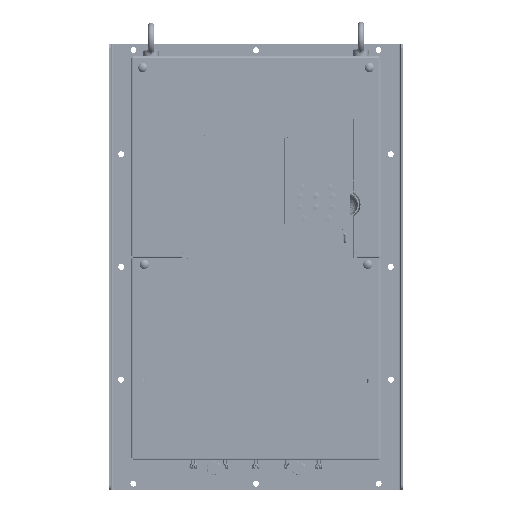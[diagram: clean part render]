
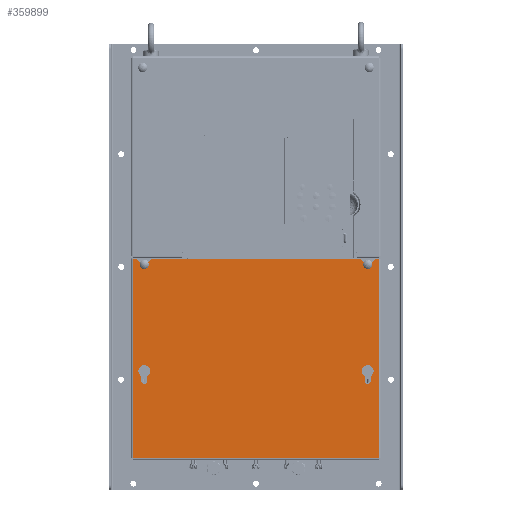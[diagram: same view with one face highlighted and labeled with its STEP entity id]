
A CAD part, top view. The second image highlights one B-rep face of the part: STEP entity #359899.
In plain terms, the highlighted planar face has unit normal (0, 0, 1) as drawn and (0, 1, 0) by its records, which use the part's own axes.
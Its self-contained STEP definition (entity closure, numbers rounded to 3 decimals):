
#358992=CARTESIAN_POINT('',(113.9,0.,-79.5));
#358993=DIRECTION('',(0.,1.,0.));
#358994=DIRECTION('',(-1.,0.,0.));
#358995=AXIS2_PLACEMENT_3D('',#358992,#358993,#358994);
#358997=DIRECTION('',(0.,0.,1.));
#358998=VECTOR('',#358997,4.804);
#358999=CARTESIAN_POINT('',(116.9,0.,-84.304));
#359000=LINE('',#358999,#358998);
#359001=CARTESIAN_POINT('',(113.9,0.,-89.5));
#359002=DIRECTION('',(0.,1.,0.));
#359003=DIRECTION('',(0.5,0.,0.866));
#359004=AXIS2_PLACEMENT_3D('',#359001,#359002,#359003);
#359006=DIRECTION('',(0.,0.,-1.));
#359007=VECTOR('',#359006,4.804);
#359008=CARTESIAN_POINT('',(110.9,0.,-79.5));
#359009=LINE('',#359008,#359007);
#359010=CARTESIAN_POINT('',(-113.9,0.,-79.5));
#359011=DIRECTION('',(0.,1.,0.));
#359012=DIRECTION('',(-1.,0.,0.));
#359013=AXIS2_PLACEMENT_3D('',#359010,#359011,#359012);
#359015=DIRECTION('',(0.,0.,1.));
#359016=VECTOR('',#359015,4.804);
#359017=CARTESIAN_POINT('',(-110.9,0.,-84.304));
#359018=LINE('',#359017,#359016);
#359019=CARTESIAN_POINT('',(-113.9,0.,-89.5));
#359020=DIRECTION('',(0.,1.,0.));
#359021=DIRECTION('',(0.5,0.,0.866));
#359022=AXIS2_PLACEMENT_3D('',#359019,#359020,#359021);
#359024=DIRECTION('',(0.,0.,-1.));
#359025=VECTOR('',#359024,4.804);
#359026=CARTESIAN_POINT('',(-116.9,0.,-79.5));
#359027=LINE('',#359026,#359025);
#359028=DIRECTION('',(-0.707,0.,-0.707));
#359029=VECTOR('',#359028,5.657);
#359030=CARTESIAN_POINT('',(111.,0.,-199.4));
#359031=LINE('',#359030,#359029);
#359032=DIRECTION('',(0.,0.,1.));
#359033=VECTOR('',#359032,1.1);
#359034=CARTESIAN_POINT('',(111.,0.,-199.4));
#359035=LINE('',#359034,#359033);
#359036=CARTESIAN_POINT('',(114.,0.,-198.3));
#359037=DIRECTION('',(0.,1.,0.));
#359038=DIRECTION('',(-1.,0.,0.));
#359039=AXIS2_PLACEMENT_3D('',#359036,#359037,#359038);
#359041=DIRECTION('',(0.,0.,1.));
#359042=VECTOR('',#359041,1.1);
#359043=CARTESIAN_POINT('',(117.,0.,-199.4));
#359044=LINE('',#359043,#359042);
#359045=DIRECTION('',(-0.707,0.,0.707));
#359046=VECTOR('',#359045,5.657);
#359047=CARTESIAN_POINT('',(121.,0.,-203.4));
#359048=LINE('',#359047,#359046);
#359049=DIRECTION('',(-1.,0.,0.));
#359050=VECTOR('',#359049,4.5);
#359051=CARTESIAN_POINT('',(125.5,0.,-203.4));
#359052=LINE('',#359051,#359050);
#359053=DIRECTION('',(-1.,0.,0.));
#359054=VECTOR('',#359053,4.5);
#359055=CARTESIAN_POINT('',(-121.,0.,-203.4));
#359056=LINE('',#359055,#359054);
#359057=DIRECTION('',(-0.707,0.,-0.707));
#359058=VECTOR('',#359057,5.657);
#359059=CARTESIAN_POINT('',(-117.,0.,-199.4));
#359060=LINE('',#359059,#359058);
#359061=DIRECTION('',(0.,0.,1.));
#359062=VECTOR('',#359061,1.1);
#359063=CARTESIAN_POINT('',(-117.,0.,-199.4));
#359064=LINE('',#359063,#359062);
#359065=CARTESIAN_POINT('',(-114.,0.,-198.3));
#359066=DIRECTION('',(0.,1.,0.));
#359067=DIRECTION('',(-1.,0.,0.));
#359068=AXIS2_PLACEMENT_3D('',#359065,#359066,#359067);
#359070=DIRECTION('',(0.,0.,1.));
#359071=VECTOR('',#359070,1.1);
#359072=CARTESIAN_POINT('',(-111.,0.,-199.4));
#359073=LINE('',#359072,#359071);
#359074=DIRECTION('',(-0.707,0.,0.707));
#359075=VECTOR('',#359074,5.657);
#359076=CARTESIAN_POINT('',(-107.,0.,-203.4));
#359077=LINE('',#359076,#359075);
#359078=DIRECTION('',(-1.,0.,0.));
#359079=VECTOR('',#359078,214.);
#359080=CARTESIAN_POINT('',(107.,0.,-203.4));
#359081=LINE('',#359080,#359079);
#359521=DIRECTION('',(0.,0.,1.));
#359522=VECTOR('',#359521,202.9);
#359523=CARTESIAN_POINT('',(-125.5,0.,-203.4));
#359524=LINE('',#359523,#359522);
#359572=DIRECTION('',(1.,0.,0.));
#359573=VECTOR('',#359572,251.);
#359574=CARTESIAN_POINT('',(-125.5,0.,-0.5));
#359575=LINE('',#359574,#359573);
#359614=DIRECTION('',(0.,0.,-1.));
#359615=VECTOR('',#359614,202.9);
#359616=CARTESIAN_POINT('',(125.5,0.,-0.5));
#359617=LINE('',#359616,#359615);
#359668=CARTESIAN_POINT('',(110.9,0.,-79.5));
#359669=CARTESIAN_POINT('',(116.9,0.,-79.5));
#359670=VERTEX_POINT('',#359668);
#359671=VERTEX_POINT('',#359669);
#359672=CARTESIAN_POINT('',(110.9,0.,-84.304));
#359673=VERTEX_POINT('',#359672);
#359674=CARTESIAN_POINT('',(116.9,0.,-84.304));
#359675=VERTEX_POINT('',#359674);
#359676=CARTESIAN_POINT('',(-116.9,0.,-79.5));
#359677=CARTESIAN_POINT('',(-110.9,0.,-79.5));
#359678=VERTEX_POINT('',#359676);
#359679=VERTEX_POINT('',#359677);
#359680=CARTESIAN_POINT('',(-116.9,0.,-84.304));
#359681=VERTEX_POINT('',#359680);
#359682=CARTESIAN_POINT('',(-110.9,0.,-84.304));
#359683=VERTEX_POINT('',#359682);
#359700=CARTESIAN_POINT('',(111.,0.,-198.3));
#359701=CARTESIAN_POINT('',(117.,0.,-198.3));
#359702=VERTEX_POINT('',#359700);
#359703=VERTEX_POINT('',#359701);
#359704=CARTESIAN_POINT('',(-117.,0.,-198.3));
#359705=CARTESIAN_POINT('',(-111.,0.,-198.3));
#359706=VERTEX_POINT('',#359704);
#359707=VERTEX_POINT('',#359705);
#359716=CARTESIAN_POINT('',(111.,0.,-199.4));
#359717=CARTESIAN_POINT('',(107.,0.,-203.4));
#359718=VERTEX_POINT('',#359716);
#359719=VERTEX_POINT('',#359717);
#359724=CARTESIAN_POINT('',(121.,0.,-203.4));
#359725=CARTESIAN_POINT('',(117.,0.,-199.4));
#359726=VERTEX_POINT('',#359724);
#359727=VERTEX_POINT('',#359725);
#359732=CARTESIAN_POINT('',(-107.,0.,-203.4));
#359733=CARTESIAN_POINT('',(-111.,0.,-199.4));
#359734=VERTEX_POINT('',#359732);
#359735=VERTEX_POINT('',#359733);
#359740=CARTESIAN_POINT('',(-117.,0.,-199.4));
#359741=CARTESIAN_POINT('',(-121.,0.,-203.4));
#359742=VERTEX_POINT('',#359740);
#359743=VERTEX_POINT('',#359741);
#359748=CARTESIAN_POINT('',(125.5,0.,-203.4));
#359749=VERTEX_POINT('',#359748);
#359750=CARTESIAN_POINT('',(-125.5,0.,-203.4));
#359751=VERTEX_POINT('',#359750);
#359770=CARTESIAN_POINT('',(125.5,0.,-0.5));
#359771=VERTEX_POINT('',#359770);
#359786=CARTESIAN_POINT('',(-125.5,0.,-0.5));
#359787=VERTEX_POINT('',#359786);
#359840=CARTESIAN_POINT('',(0.,0.,0.));
#359841=DIRECTION('',(0.,1.,0.));
#359842=DIRECTION('',(1.,0.,0.));
#359843=AXIS2_PLACEMENT_3D('',#359840,#359841,#359842);
#359844=PLANE('',#359843);
#359846=ORIENTED_EDGE('',*,*,#359845,.F.);
#359848=ORIENTED_EDGE('',*,*,#359847,.T.);
#359850=ORIENTED_EDGE('',*,*,#359849,.T.);
#359852=ORIENTED_EDGE('',*,*,#359851,.F.);
#359854=ORIENTED_EDGE('',*,*,#359853,.F.);
#359856=ORIENTED_EDGE('',*,*,#359855,.F.);
#359858=ORIENTED_EDGE('',*,*,#359857,.F.);
#359860=ORIENTED_EDGE('',*,*,#359859,.F.);
#359862=ORIENTED_EDGE('',*,*,#359861,.F.);
#359864=ORIENTED_EDGE('',*,*,#359863,.F.);
#359866=ORIENTED_EDGE('',*,*,#359865,.F.);
#359868=ORIENTED_EDGE('',*,*,#359867,.T.);
#359870=ORIENTED_EDGE('',*,*,#359869,.T.);
#359872=ORIENTED_EDGE('',*,*,#359871,.F.);
#359874=ORIENTED_EDGE('',*,*,#359873,.F.);
#359876=ORIENTED_EDGE('',*,*,#359875,.F.);
#359877=EDGE_LOOP('',(#359846,#359848,#359850,#359852,#359854,#359856,#359858,
#359860,#359862,#359864,#359866,#359868,#359870,#359872,#359874,#359876));
#359878=FACE_OUTER_BOUND('',#359877,.F.);
#359880=ORIENTED_EDGE('',*,*,#359879,.T.);
#359882=ORIENTED_EDGE('',*,*,#359881,.F.);
#359884=ORIENTED_EDGE('',*,*,#359883,.T.);
#359886=ORIENTED_EDGE('',*,*,#359885,.F.);
#359887=EDGE_LOOP('',(#359880,#359882,#359884,#359886));
#359888=FACE_BOUND('',#359887,.F.);
#359890=ORIENTED_EDGE('',*,*,#359889,.T.);
#359892=ORIENTED_EDGE('',*,*,#359891,.F.);
#359894=ORIENTED_EDGE('',*,*,#359893,.T.);
#359896=ORIENTED_EDGE('',*,*,#359895,.F.);
#359897=EDGE_LOOP('',(#359890,#359892,#359894,#359896));
#359898=FACE_BOUND('',#359897,.F.);
#359899=ADVANCED_FACE('',(#359878,#359888,#359898),#359844,.T.);
#358996=CIRCLE('',#358995,3.);
#359005=CIRCLE('',#359004,6.);
#359014=CIRCLE('',#359013,3.);
#359023=CIRCLE('',#359022,6.);
#359040=CIRCLE('',#359039,3.);
#359069=CIRCLE('',#359068,3.);
#359845=EDGE_CURVE('',#359718,#359719,#359031,.T.);
#359847=EDGE_CURVE('',#359718,#359702,#359035,.T.);
#359849=EDGE_CURVE('',#359702,#359703,#359040,.T.);
#359851=EDGE_CURVE('',#359727,#359703,#359044,.T.);
#359853=EDGE_CURVE('',#359726,#359727,#359048,.T.);
#359855=EDGE_CURVE('',#359749,#359726,#359052,.T.);
#359857=EDGE_CURVE('',#359771,#359749,#359617,.T.);
#359859=EDGE_CURVE('',#359787,#359771,#359575,.T.);
#359861=EDGE_CURVE('',#359751,#359787,#359524,.T.);
#359863=EDGE_CURVE('',#359743,#359751,#359056,.T.);
#359865=EDGE_CURVE('',#359742,#359743,#359060,.T.);
#359867=EDGE_CURVE('',#359742,#359706,#359064,.T.);
#359869=EDGE_CURVE('',#359706,#359707,#359069,.T.);
#359871=EDGE_CURVE('',#359735,#359707,#359073,.T.);
#359873=EDGE_CURVE('',#359734,#359735,#359077,.T.);
#359875=EDGE_CURVE('',#359719,#359734,#359081,.T.);
#359879=EDGE_CURVE('',#359670,#359671,#358996,.T.);
#359881=EDGE_CURVE('',#359675,#359671,#359000,.T.);
#359883=EDGE_CURVE('',#359675,#359673,#359005,.T.);
#359885=EDGE_CURVE('',#359670,#359673,#359009,.T.);
#359889=EDGE_CURVE('',#359678,#359679,#359014,.T.);
#359891=EDGE_CURVE('',#359683,#359679,#359018,.T.);
#359893=EDGE_CURVE('',#359683,#359681,#359023,.T.);
#359895=EDGE_CURVE('',#359678,#359681,#359027,.T.);
